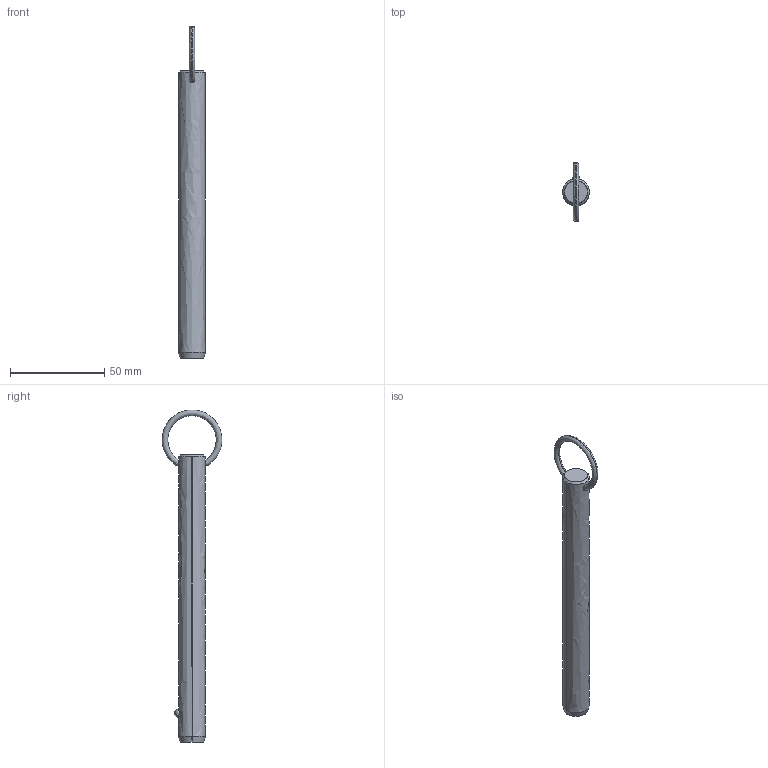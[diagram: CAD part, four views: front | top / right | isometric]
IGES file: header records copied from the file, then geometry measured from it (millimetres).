
Start section: SolidWorks IGES file using analytic representation for surfaces
Global section: file name: C:\Users\liam_\OneDrive\Documents\WORK\Work for WixRoyd\Job Files\J-00019 - Matt Davis CAD Checking\04. CAD Drawings\automotion20190605\P1250.2_v2\P1250.2_v2_20190729_IGES\P1250.056-500.igs; native system: SolidWorks 2017; preprocessor: SolidWorks 2017; author: liam_; date: 190729.232434; units: millimetre
Bounding box: 14.2 x 31.69 x 176.1 mm (x, y, z)
Surface area: 7760.1 mm2 (no closed solid volume)
Topology: 0 solids, 0 shells, 12 faces, 285 edges, 283 vertices
Faces by surface type: revolution 8, bspline 4
